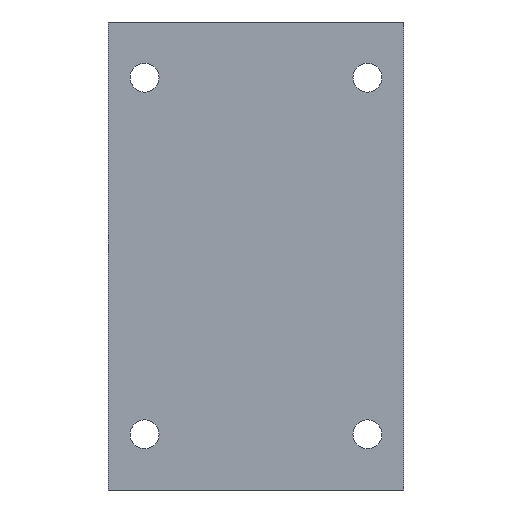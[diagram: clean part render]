
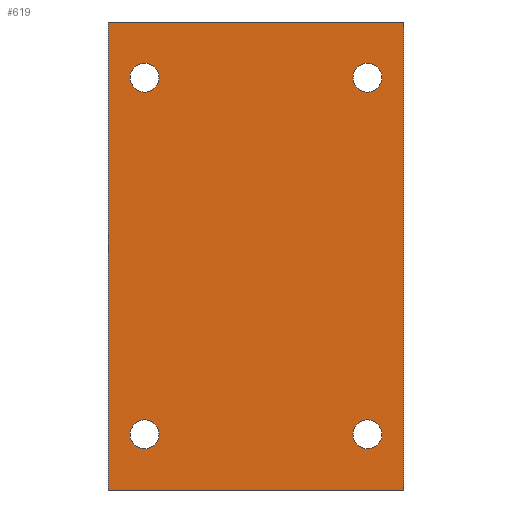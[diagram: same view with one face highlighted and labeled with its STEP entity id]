
A CAD part, front view. The second image highlights one B-rep face of the part: STEP entity #619.
In plain terms, the highlighted planar face has unit normal (0, -1, 0).
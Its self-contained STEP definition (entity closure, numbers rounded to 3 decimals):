
#54 = CARTESIAN_POINT ( 'NONE',  ( 20., -21., 29.4 ) ) ;
#55 = VERTEX_POINT ( 'NONE', #1051 ) ;
#67 = VECTOR ( 'NONE', #2423, 1000. ) ;
#81 = VERTEX_POINT ( 'NONE', #1086 ) ;
#87 = EDGE_CURVE ( 'NONE', #3249, #2224, #2077, .T. ) ;
#88 = DIRECTION ( 'NONE',  ( 0., 1., 0. ) ) ;
#96 = DIRECTION ( 'NONE',  ( 0., 0., -1. ) ) ;
#247 = EDGE_CURVE ( 'NONE', #1090, #81, #2656, .T. ) ;
#273 = ORIENTED_EDGE ( 'NONE', *, *, #1009, .F. ) ;
#305 = EDGE_CURVE ( 'NONE', #3113, #55, #2710, .T. ) ;
#363 = DIRECTION ( 'NONE',  ( 0., 0., -1. ) ) ;
#366 = DIRECTION ( 'NONE',  ( 0., -1., 0. ) ) ;
#439 = EDGE_LOOP ( 'NONE', ( #2096, #2963 ) ) ;
#444 = CARTESIAN_POINT ( 'NONE',  ( 26.5, -21., 42. ) ) ;
#449 = CIRCLE ( 'NONE', #1735, 2.6 ) ;
#469 = ORIENTED_EDGE ( 'NONE', *, *, #2185, .F. ) ;
#481 = VECTOR ( 'NONE', #2875, 1000. ) ;
#574 = ORIENTED_EDGE ( 'NONE', *, *, #2680, .F. ) ;
#575 = PLANE ( 'NONE',  #1684 ) ;
#601 = VECTOR ( 'NONE', #3309, 1000. ) ;
#610 = EDGE_CURVE ( 'NONE', #55, #3113, #2860, .T. ) ;
#619 = ADVANCED_FACE ( 'NONE', ( #2632, #2370, #2595, #1834, #3076 ), #575, .F. ) ;
#639 = AXIS2_PLACEMENT_3D ( 'NONE', #1858, #366, #1574 ) ;
#683 = EDGE_LOOP ( 'NONE', ( #2309, #469 ) ) ;
#712 = CARTESIAN_POINT ( 'NONE',  ( 20., -21., 32. ) ) ;
#783 = ORIENTED_EDGE ( 'NONE', *, *, #305, .F. ) ;
#808 = DIRECTION ( 'NONE',  ( 0., 0., 1. ) ) ;
#901 = CARTESIAN_POINT ( 'NONE',  ( -20., -21., 29.4 ) ) ;
#904 = DIRECTION ( 'NONE',  ( 0., -1., 0. ) ) ;
#907 = ORIENTED_EDGE ( 'NONE', *, *, #610, .F. ) ;
#925 = CARTESIAN_POINT ( 'NONE',  ( 26.5, -21., -42. ) ) ;
#1009 = EDGE_CURVE ( 'NONE', #81, #1090, #2772, .T. ) ;
#1018 = ORIENTED_EDGE ( 'NONE', *, *, #1945, .F. ) ;
#1023 = CARTESIAN_POINT ( 'NONE',  ( -26.5, -21., 42. ) ) ;
#1051 = CARTESIAN_POINT ( 'NONE',  ( 20., -21., 34.6 ) ) ;
#1086 = CARTESIAN_POINT ( 'NONE',  ( 20., -21., -34.6 ) ) ;
#1090 = VERTEX_POINT ( 'NONE', #3074 ) ;
#1093 = VERTEX_POINT ( 'NONE', #2331 ) ;
#1128 = CIRCLE ( 'NONE', #1718, 2.6 ) ;
#1210 = VERTEX_POINT ( 'NONE', #925 ) ;
#1263 = LINE ( 'NONE', #444, #601 ) ;
#1342 = CARTESIAN_POINT ( 'NONE',  ( 20., -21., 32. ) ) ;
#1468 = DIRECTION ( 'NONE',  ( 0., 0., -1. ) ) ;
#1477 = DIRECTION ( 'NONE',  ( 0., -1., 0. ) ) ;
#1493 = DIRECTION ( 'NONE',  ( 0., 0., -1. ) ) ;
#1519 = LINE ( 'NONE', #1807, #481 ) ;
#1529 = AXIS2_PLACEMENT_3D ( 'NONE', #2050, #1477, #1493 ) ;
#1550 = CARTESIAN_POINT ( 'NONE',  ( -20., -21., -32. ) ) ;
#1574 = DIRECTION ( 'NONE',  ( 0., 0., -1. ) ) ;
#1587 = EDGE_CURVE ( 'NONE', #1093, #1210, #1519, .T. ) ;
#1610 = EDGE_CURVE ( 'NONE', #3290, #2842, #1128, .T. ) ;
#1612 = DIRECTION ( 'NONE',  ( 0., -1., 0. ) ) ;
#1684 = AXIS2_PLACEMENT_3D ( 'NONE', #1815, #88, #808 ) ;
#1718 = AXIS2_PLACEMENT_3D ( 'NONE', #2686, #2125, #96 ) ;
#1735 = AXIS2_PLACEMENT_3D ( 'NONE', #2637, #1612, #363 ) ;
#1807 = CARTESIAN_POINT ( 'NONE',  ( -26.5, -21., -42. ) ) ;
#1815 = CARTESIAN_POINT ( 'NONE',  ( -26.5, -21., 42. ) ) ;
#1834 = FACE_BOUND ( 'NONE', #683, .T. ) ;
#1858 = CARTESIAN_POINT ( 'NONE',  ( -20., -21., 32. ) ) ;
#1926 = AXIS2_PLACEMENT_3D ( 'NONE', #2718, #904, #2985 ) ;
#1945 = EDGE_CURVE ( 'NONE', #2692, #3040, #2515, .T. ) ;
#2040 = CIRCLE ( 'NONE', #2089, 2.6 ) ;
#2050 = CARTESIAN_POINT ( 'NONE',  ( 20., -21., -32. ) ) ;
#2066 = CARTESIAN_POINT ( 'NONE',  ( -20., -21., 34.6 ) ) ;
#2077 = CIRCLE ( 'NONE', #639, 2.6 ) ;
#2083 = CARTESIAN_POINT ( 'NONE',  ( -26.5, -21., 42. ) ) ;
#2089 = AXIS2_PLACEMENT_3D ( 'NONE', #1550, #2561, #2814 ) ;
#2096 = ORIENTED_EDGE ( 'NONE', *, *, #87, .F. ) ;
#2099 = DIRECTION ( 'NONE',  ( 0., 0., -1. ) ) ;
#2123 = CARTESIAN_POINT ( 'NONE',  ( -20., -21., -34.6 ) ) ;
#2125 = DIRECTION ( 'NONE',  ( 0., -1., 0. ) ) ;
#2185 = EDGE_CURVE ( 'NONE', #2842, #3290, #2040, .T. ) ;
#2224 = VERTEX_POINT ( 'NONE', #2066 ) ;
#2236 = ORIENTED_EDGE ( 'NONE', *, *, #1587, .T. ) ;
#2277 = CARTESIAN_POINT ( 'NONE',  ( 26.5, -21., 42. ) ) ;
#2309 = ORIENTED_EDGE ( 'NONE', *, *, #1610, .F. ) ;
#2331 = CARTESIAN_POINT ( 'NONE',  ( -26.5, -21., -42. ) ) ;
#2370 = FACE_BOUND ( 'NONE', #2964, .T. ) ;
#2384 = AXIS2_PLACEMENT_3D ( 'NONE', #1342, #2866, #2099 ) ;
#2423 = DIRECTION ( 'NONE',  ( 0., 0., -1. ) ) ;
#2445 = CARTESIAN_POINT ( 'NONE',  ( -20., -21., -29.4 ) ) ;
#2515 = LINE ( 'NONE', #2083, #2838 ) ;
#2561 = DIRECTION ( 'NONE',  ( 0., -1., 0. ) ) ;
#2595 = FACE_OUTER_BOUND ( 'NONE', #3065, .T. ) ;
#2617 = CARTESIAN_POINT ( 'NONE',  ( -26.5, -21., 42. ) ) ;
#2632 = FACE_BOUND ( 'NONE', #439, .T. ) ;
#2637 = CARTESIAN_POINT ( 'NONE',  ( -20., -21., 32. ) ) ;
#2643 = ORIENTED_EDGE ( 'NONE', *, *, #3199, .T. ) ;
#2656 = CIRCLE ( 'NONE', #1926, 2.6 ) ;
#2680 = EDGE_CURVE ( 'NONE', #3040, #1210, #1263, .T. ) ;
#2686 = CARTESIAN_POINT ( 'NONE',  ( -20., -21., -32. ) ) ;
#2692 = VERTEX_POINT ( 'NONE', #1023 ) ;
#2710 = CIRCLE ( 'NONE', #3139, 2.6 ) ;
#2718 = CARTESIAN_POINT ( 'NONE',  ( 20., -21., -32. ) ) ;
#2772 = CIRCLE ( 'NONE', #1529, 2.6 ) ;
#2814 = DIRECTION ( 'NONE',  ( 0., 0., -1. ) ) ;
#2838 = VECTOR ( 'NONE', #3101, 1000. ) ;
#2842 = VERTEX_POINT ( 'NONE', #2445 ) ;
#2860 = CIRCLE ( 'NONE', #2384, 2.6 ) ;
#2866 = DIRECTION ( 'NONE',  ( 0., -1., 0. ) ) ;
#2875 = DIRECTION ( 'NONE',  ( 1., 0., 0. ) ) ;
#2963 = ORIENTED_EDGE ( 'NONE', *, *, #3315, .F. ) ;
#2964 = EDGE_LOOP ( 'NONE', ( #273, #3235 ) ) ;
#2985 = DIRECTION ( 'NONE',  ( 0., 0., -1. ) ) ;
#3004 = DIRECTION ( 'NONE',  ( 0., -1., 0. ) ) ;
#3040 = VERTEX_POINT ( 'NONE', #2277 ) ;
#3065 = EDGE_LOOP ( 'NONE', ( #2236, #574, #1018, #2643 ) ) ;
#3074 = CARTESIAN_POINT ( 'NONE',  ( 20., -21., -29.4 ) ) ;
#3076 = FACE_BOUND ( 'NONE', #3214, .T. ) ;
#3101 = DIRECTION ( 'NONE',  ( 1., 0., 0. ) ) ;
#3113 = VERTEX_POINT ( 'NONE', #54 ) ;
#3139 = AXIS2_PLACEMENT_3D ( 'NONE', #712, #3004, #1468 ) ;
#3173 = LINE ( 'NONE', #2617, #67 ) ;
#3199 = EDGE_CURVE ( 'NONE', #2692, #1093, #3173, .T. ) ;
#3214 = EDGE_LOOP ( 'NONE', ( #783, #907 ) ) ;
#3235 = ORIENTED_EDGE ( 'NONE', *, *, #247, .F. ) ;
#3249 = VERTEX_POINT ( 'NONE', #901 ) ;
#3290 = VERTEX_POINT ( 'NONE', #2123 ) ;
#3309 = DIRECTION ( 'NONE',  ( 0., 0., -1. ) ) ;
#3315 = EDGE_CURVE ( 'NONE', #2224, #3249, #449, .T. ) ;
